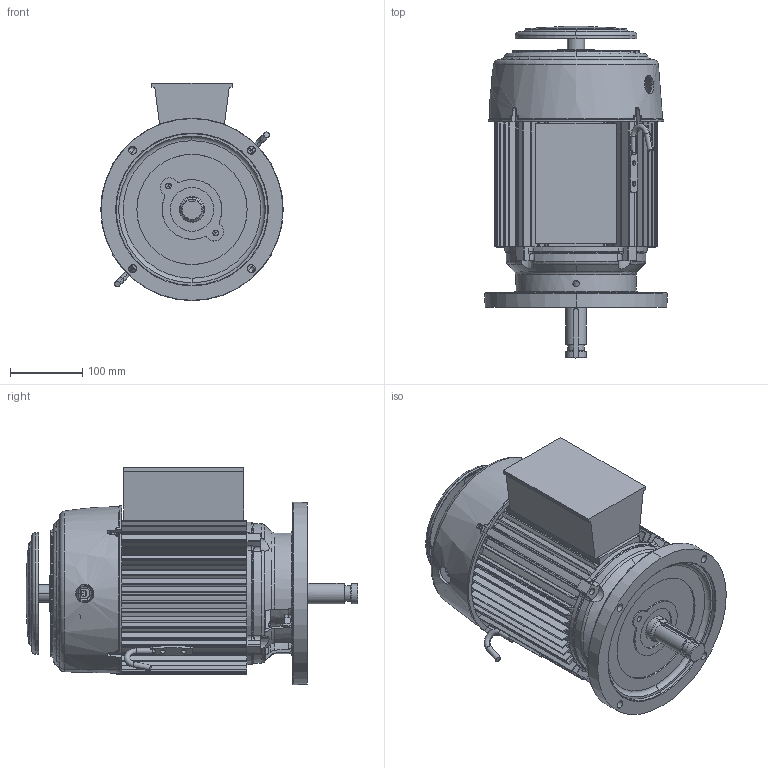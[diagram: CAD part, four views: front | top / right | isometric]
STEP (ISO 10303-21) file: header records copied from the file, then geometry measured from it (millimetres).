
FILE_DESCRIPTION((''),'2;1');
FILE_NAME('180_AVE_ASSY_ASM','2016-04-05T',('emd2341'),('Nidec Motor Corporation'),'PRO/ENGINEER BY PARAMETRIC TECHNOLOGY CORPORATION, 2013150','PRO/ENGINEER BY PARAMETRIC TECHNOLOGY CORPORATION, 2013150','');
FILE_SCHEMA(('CONFIG_CONTROL_DESIGN'));
Length unit declared in the file: inch
Products named in the file (12): 0649375; 0168813-BKT; 0378901-BKT_AF0; 0378901-BKT_ASM; 0358103-CVR; 0651822; OBB; SHAFT; 0187666-SPA; 0137704-CAP; 0165363-HOK; 180_AVE_ASSY_ASM
Assembly tree (12 placements, depth 3):
  180_AVE_ASSY_ASM
    0649375
    0168813-BKT
    0378901-BKT_ASM
      0378901-BKT_AF0
    0358103-CVR
    0651822
    OBB
    SHAFT
    0187666-SPA
    0137704-CAP
    0165363-HOK  x2
Bounding box: 252.08 x 458.69 x 300.29 mm (x, y, z)
Volume: 3842688.1 mm3; surface area: 1189538.6 mm2
Topology: 13 solids, 13 shells, 2665 faces, 6992 edges, 4302 vertices
Faces by surface type: bspline 865, cylinder 639, plane 513, torus 309, cone 280, sphere 59
Entity records: 125378 total; most frequent: CARTESIAN_POINT 67038, ORIENTED_EDGE 13816, DIRECTION 10225, EDGE_CURVE 6908, AXIS2_PLACEMENT_3D 4284, VERTEX_POINT 4265, EDGE_LOOP 2789, B_SPLINE_CURVE_WITH_KNOTS 2770
